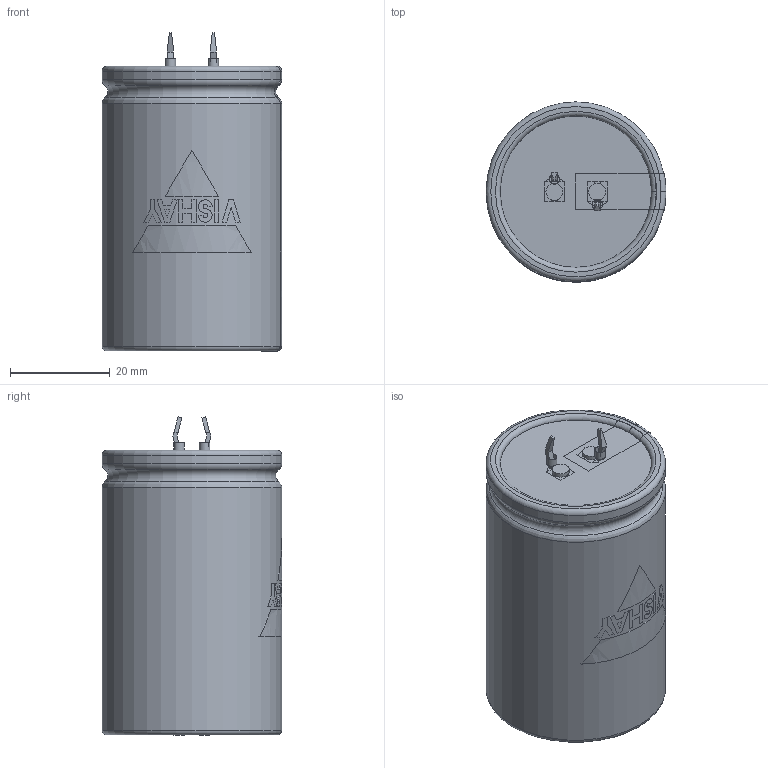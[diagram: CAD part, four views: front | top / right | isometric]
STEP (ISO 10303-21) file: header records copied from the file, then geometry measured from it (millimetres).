
FILE_DESCRIPTION(('FreeCAD Model'),'2;1');
FILE_NAME( 'C:/Users/Gebruiker/Documents/FreeCAD/SnapIn_35x55_2pin_5.8.step', '2020-11-12T20:44:31',('Author'),(''), 'Open CASCADE STEP processor 6.8','FreeCAD','Unknown');
FILE_SCHEMA(('AUTOMOTIVE_DESIGN_CC2 { 1 2 10303 214 -1 1 5 4 }'));
Length unit declared in the file: millimetre
Products named in the file (9): ASSEMBLY; TerminalMin; TerminalPlus; PCBHoles; Disc; BottomInsulation; Can3D; InkMinusBar; InkLogo
Assembly tree (8 placements, depth 2):
  ASSEMBLY
    TerminalMin
    TerminalPlus
    PCBHoles
    Disc
    BottomInsulation
    Can3D
    InkMinusBar
    InkLogo
Bounding box: 36.05 x 36.05 x 63.75 mm (x, y, z)
Volume: 65669.3 mm3; surface area: 19977.1 mm2
Topology: 16 solids, 16 shells, 197 faces, 488 edges, 320 vertices
Faces by surface type: plane 150, cylinder 29, torus 18
Full cylindrical faces by diameter (mm): 2 x2, 2.1 x2, 3.4 x2, 28.8 x2, 30.3 x1, 36 x2
Entity records: 20711 total; most frequent: CARTESIAN_POINT 9790, DIRECTION 1704, ORIENTED_EDGE 976, PCURVE 976, DEFINITIONAL_REPRESENTATION 976, LINE 949, VECTOR 949, EDGE_CURVE 488
